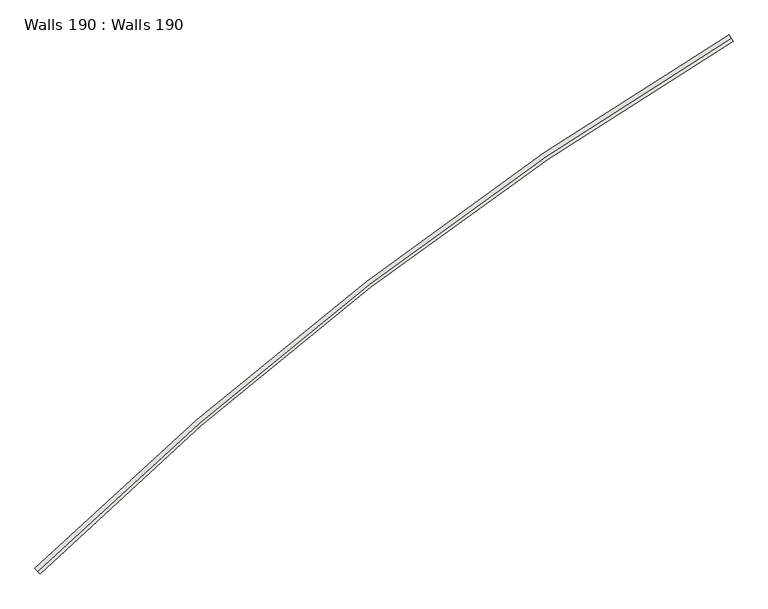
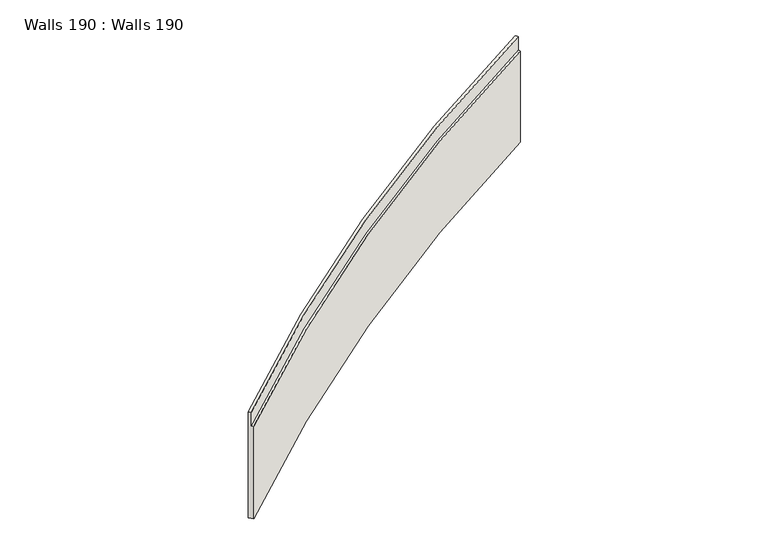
"""IFC4 building model written with IfcOpenShell, lengths in millimetres: wall geometry, Walls 190 : Walls 190."""

from ifc_helpers import new_model, si_unit, frame, origin, place, context, project, spatial, source, transform, mapped, element, save
from ifc_brep_helpers import plane_surface, spline_curve, spline_surface, advanced_brep


def walls_190_walls_190_602c9f17(model_context):
    return source(origin(), model_context, "Body", "AdvancedBrep", [
        advanced_brep(
        [(239706.9045303, 146073.1757545, 642390.0), (239951.142071, 145822.4806734, 642390.0), (239951.142071, 145822.4806734, 649160.0), (239846.4688393, 145929.9214224, 649160.0), (239846.4688393, 145929.9214224, 650160.0), (239706.9045303, 146073.1757545, 650160.0), (272956.2482205, 171643.1478284, 642890.0), (272956.2482205, 171643.1478284, 650560.0), (273058.8688143, 171471.4824162, 650560.0), (273058.8688143, 171471.4824162, 649560.0), (273135.8342596, 171342.733357, 649560.0), (273135.8342596, 171342.733357, 642890.0)],
        [
            (0, 1),
            (1, 2),
            (2, 3),
            (3, 4),
            (4, 5),
            (5, 0),
            (6, 7),
            (7, 8),
            (8, 9),
            (9, 10),
            (10, 11),
            (11, 6),
            (11, 1, spline_curve(3, [(273135.8342596, 171342.733357, 642890.0), (270134.675411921, 169548.657900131, 642848.333333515), (267185.908816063, 167666.940579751, 642806.666666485), (261403.209555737, 163734.635168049, 642723.333333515), (258569.27689185, 161684.047076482, 642681.666666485), (253025.90454835, 157420.989214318, 642598.333333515), (250316.464867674, 155208.519444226, 642556.666666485), (245031.313187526, 150629.239119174, 642473.333333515), (242455.601186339, 148262.428565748, 642431.666666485), (239951.142071, 145822.4806734, 642390.0)], [4, 2, 2, 2, 4], [0.0, 34.44561611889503, 68.89123223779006, 103.33684835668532, 137.78246447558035])),
            (0, 6, spline_curve(3, [(239706.9045303, 146073.1757545, 642390.0), (242216.242914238, 148517.877232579, 642431.666666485), (244796.973001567, 150889.298885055, 642473.333333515), (250092.421388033, 155477.500711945, 642556.666666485), (252807.139686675, 157694.280889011, 642598.333333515), (258361.311810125, 161965.644179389, 642681.666666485), (261200.765634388, 164020.227294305, 642723.333333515), (266994.730937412, 167960.193750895, 642806.666666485), (269949.242416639, 169845.57709449, 642848.333333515), (272956.2482205, 171643.1478284, 642890.0)], [4, 2, 2, 2, 4], [0.0, 34.44561611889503, 68.89123223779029, 103.33684835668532, 137.78246447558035])),
            (9, 3, spline_curve(3, [(273058.8688143, 171471.4824162, 649560.0), (270055.204128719, 169675.908983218, 649526.666667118), (267103.975439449, 167792.620510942, 649493.333332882), (261316.447875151, 163857.031792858, 649426.666667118), (258480.148999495, 161804.731549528, 649393.333332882), (252932.148179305, 157538.114217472, 649326.666667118), (250220.446233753, 155323.797130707, 649293.333332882), (244930.881679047, 150740.693304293, 649226.666667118), (242353.019069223, 148371.906566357, 649193.333332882), (239846.4688393, 145929.9214224, 649160.0)], [4, 2, 2, 2, 4], [0.0, 34.425584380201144, 68.85116876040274, 103.27675314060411, 137.70233752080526])),
            (2, 10, spline_curve(3, [(239951.142071, 145822.4806734, 649160.0), (242455.601185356, 148262.428565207, 649193.333332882), (245031.313186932, 150629.23911988, 649226.666667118), (250316.464868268, 155208.51944352, 649293.333332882), (253025.904548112, 157420.989214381, 649326.666667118), (258569.276892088, 161684.047076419, 649393.333332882), (261403.209556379, 163734.6351677, 649426.666667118), (267185.908815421, 167666.9405801, 649493.333332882), (270134.675412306, 169548.657899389, 649526.666667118), (273135.8342596, 171342.733357, 649560.0)], [4, 2, 2, 2, 4], [0.0, 34.425584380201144, 68.85116876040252, 103.27675314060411, 137.70233752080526])),
            (7, 5, spline_curve(3, [(272956.2482205, 171643.1478284, 650560.0), (269949.24241738, 169845.577094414, 650526.666666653), (266994.730937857, 167960.193751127, 650493.333333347), (261200.765633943, 164020.227294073, 650426.666666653), (258361.311810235, 161965.644179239, 650393.333333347), (252807.139686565, 157694.280889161, 650326.666666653), (250092.421387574, 155477.500712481, 650293.333333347), (244796.973002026, 150889.298884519, 650226.666666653), (242216.242914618, 148517.877232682, 650193.333333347), (239706.9045303, 146073.1757545, 650160.0)], [4, 2, 2, 2, 4], [0.0, 34.45910186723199, 68.91820373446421, 103.37730560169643, 137.83640746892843])),
            (4, 8, spline_curve(3, [(239846.4688393, 145929.9214224, 650160.0), (242353.019069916, 148371.90656654, 650193.333333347), (244930.881678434, 150740.693304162, 650226.666666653), (250220.446234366, 155323.797130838, 650293.333333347), (252932.148179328, 157538.114217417, 650326.666666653), (258480.148999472, 161804.731549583, 650393.333333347), (261316.447874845, 163857.031793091, 650426.666666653), (267103.975439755, 167792.620510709, 650493.333333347), (270055.204128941, 169675.908983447, 650526.666666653), (273058.8688143, 171471.4824162, 650560.0)], [4, 2, 2, 2, 4], [0.0, 34.45910186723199, 68.91820373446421, 103.37730560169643, 137.83640746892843])),
        ],
        [
            plane_surface(frame((239834.8384802, 145941.8592835, 647236.6666667), z_axis=(-0.71627166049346, -0.6978215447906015, 0.0), x_axis=(0.6978215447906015, -0.71627166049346, 0.0))),
            plane_surface(frame((273050.3170981, 171485.7878672, 647670.0), z_axis=(0.8583270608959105, 0.5131029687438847, 0.0), x_axis=(0.5131029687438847, -0.8583270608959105, 0.0))),
            spline_surface(3, 3, [[(272956.2482205, 171643.1478284, 642890.0), (269949.242417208, 169845.577094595, 642848.333333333), (266994.730937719, 167960.193751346, 642806.666666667), (261200.765634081, 164020.227293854, 642723.333333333), (258361.31180991, 161965.644179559, 642681.666666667), (252807.13968689, 157694.280888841, 642598.333333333), (250092.421387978, 155477.50071244, 642556.666666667), (244796.973001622, 150889.29888456, 642473.333333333), (242216.24291419, 148517.877233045, 642431.666666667), (239706.9045303, 146073.1757545, 642390.0)], [(272971.213723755, 171618.113289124, 642890.0), (269964.695166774, 169820.833828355, 642848.333333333), (267010.662427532, 167935.75598701, 642806.666666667), (261217.635960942, 163996.427950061, 642723.333333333), (258378.642233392, 161942.177754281, 642681.666666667), (252825.370092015, 157671.506582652, 642598.333333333), (250111.091677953, 155455.085606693, 642556.666666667), (244816.501350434, 150867.627237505, 642473.333333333), (242236.189436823, 148496.589844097, 642431.666666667), (239727.25765869, 146052.284497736, 642390.0)], [(272986.179227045, 171593.078749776, 642890.0), (269980.147916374, 169796.090562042, 642848.333333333), (267026.593917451, 167911.318222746, 642806.666666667), (261234.506287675, 163972.628606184, 642723.333333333), (258395.972656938, 161918.71132906, 642681.666666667), (252843.600497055, 157648.732276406, 642598.333333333), (250129.761968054, 155432.670501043, 642556.666666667), (244836.02969916, 150845.955590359, 642473.333333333), (242256.135959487, 148475.302455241, 642431.666666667), (239747.61078711, 146031.393241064, 642390.0)], [(273016.110233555, 171543.009671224, 642890.0), (270011.053415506, 169746.604029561, 642848.333333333), (267058.456897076, 167862.442694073, 642806.666666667), (261268.246941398, 163925.029918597, 642723.333333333), (258430.633503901, 161871.778478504, 642681.666666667), (252880.061307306, 157603.18366403, 642598.333333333), (250167.102548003, 155387.840289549, 642556.666666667), (244875.086396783, 150802.612296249, 642473.333333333), (242296.029004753, 148432.727677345, 642431.666666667), (239788.31704389, 145989.610727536, 642390.0)], [(273031.075736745, 171517.975131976, 642890.0), (270026.506165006, 169721.860763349, 642848.333333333), (267074.388386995, 167838.004929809, 642806.666666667), (261285.117268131, 163901.23057472, 642723.333333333), (258447.963927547, 161848.312053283, 642681.666666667), (252898.291712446, 157580.409357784, 642598.333333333), (250185.772838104, 155365.425183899, 642556.666666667), (244894.614745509, 150780.940649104, 642473.333333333), (242315.975527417, 148411.440288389, 642431.666666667), (239808.67017231, 145968.719470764, 642390.0)], [(273061.006743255, 171467.906053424, 642890.0), (270057.411664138, 169672.374230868, 642848.333333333), (267106.25136662, 167789.129401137, 642806.666666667), (261318.857921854, 163853.631887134, 642723.333333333), (258482.62477451, 161801.379202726, 642681.666666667), (252934.752522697, 157534.860745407, 642598.333333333), (250223.113418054, 155320.594972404, 642556.666666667), (244933.671443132, 150737.597354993, 642473.333333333), (242355.868572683, 148368.865510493, 642431.666666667), (239849.37642909, 145926.936957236, 642390.0)], [(273075.972246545, 171442.871514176, 642890.0), (270072.864413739, 169647.630964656, 642848.333333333), (267122.18285654, 167764.691636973, 642806.666666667), (261335.728248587, 163829.832543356, 642723.333333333), (258499.955198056, 161777.912777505, 642681.666666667), (252952.982927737, 157512.086439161, 642598.333333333), (250241.783708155, 155298.179866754, 642556.666666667), (244953.199791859, 150715.925707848, 642473.333333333), (242375.815095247, 148347.578121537, 642431.666666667), (239869.72955741, 145906.045700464, 642390.0)], [(273105.903253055, 171392.802435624, 642890.0), (270103.76991287, 169598.144432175, 642848.333333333), (267154.045836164, 167715.816108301, 642806.666666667), (261369.468902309, 163782.23385577, 642723.333333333), (258534.616045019, 161730.979926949, 642681.666666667), (252989.443737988, 157466.537826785, 642598.333333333), (250279.124288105, 155253.34965526, 642556.666666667), (244992.256489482, 150672.582413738, 642473.333333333), (242415.708140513, 148305.003343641, 642431.666666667), (239910.43581419, 145864.263186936, 642390.0)], [(273120.868756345, 171367.767896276, 642890.0), (270119.222662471, 169573.401165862, 642848.333333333), (267169.977326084, 167691.378344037, 642806.666666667), (261386.339229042, 163758.434511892, 642723.333333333), (258551.946468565, 161707.513501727, 642681.666666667), (253007.674143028, 157443.763520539, 642598.333333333), (250297.794578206, 155230.93454961, 642556.666666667), (245011.784838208, 150650.910766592, 642473.333333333), (242435.654663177, 148283.715954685, 642431.666666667), (239930.78894261, 145843.371930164, 642390.0)], [(273135.8342596, 171342.733357, 642890.0), (270134.675412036, 169548.657899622, 642848.333333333), (267185.908815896, 167666.940579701, 642806.666666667), (261403.209555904, 163734.635168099, 642723.333333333), (258569.276892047, 161684.047076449, 642681.666666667), (253025.904548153, 157420.989214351, 642598.333333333), (250316.46486818, 155208.519443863, 642556.666666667), (245031.31318702, 150629.239119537, 642473.333333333), (242455.60118581, 148262.428565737, 642431.666666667), (239951.142071, 145822.4806734, 642390.0)]], [4, 2, 2, 2, 4], [4, 2, 2, 2, 4], [0.0, 0.28707349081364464, 0.5741469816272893, 0.8612204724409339, 1.1482939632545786], [0.0, 34.44561611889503, 68.89123223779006, 103.33684835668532, 137.78246447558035]),
            spline_surface(3, 3, [[(273135.8342596, 171342.733357, 649560.0), (270134.675412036, 169548.657899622, 649526.666666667), (267185.908815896, 167666.940579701, 649493.333333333), (261403.209555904, 163734.635168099, 649426.666666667), (258569.276892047, 161684.047076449, 649393.333333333), (253025.904548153, 157420.989214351, 649326.666666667), (250316.46486818, 155208.519443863, 649293.333333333), (245031.31318702, 150629.239119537, 649226.666666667), (242455.60118581, 148262.428565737, 649193.333333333), (239951.142071, 145822.4806734, 649160.0)], [(273129.420472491, 171353.462445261, 649560.0), (270128.05280508, 169559.262156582, 649526.666666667), (267179.081034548, 167677.413907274, 649493.333333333), (261395.97941582, 163744.834886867, 649426.666666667), (258561.849567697, 161694.104115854, 649393.333333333), (253018.091517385, 157430.749631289, 649326.666666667), (250308.463315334, 155218.125917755, 649293.333333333), (245022.943894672, 150638.526968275, 649226.666666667), (242447.05267611, 148271.551732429, 649193.333333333), (239942.41930169, 145831.434069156, 649160.0)], [(273123.006685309, 171364.191533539, 649560.0), (270121.430198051, 169569.866413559, 649526.666666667), (267172.253253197, 167687.887234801, 649493.333333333), (261388.749275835, 163755.034605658, 649426.666666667), (258554.422243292, 161704.16115522, 649393.333333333), (253010.278486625, 157440.510048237, 649326.666666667), (250300.461762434, 155227.732391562, 649293.333333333), (245014.574602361, 150647.814817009, 649226.666666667), (242438.50416644, 148280.674899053, 649193.333333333), (239933.69653241, 145840.387464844, 649160.0)], [(273110.179111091, 171385.649710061, 649560.0), (270108.184984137, 169591.074927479, 649526.666666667), (267158.597690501, 167708.833889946, 649493.333333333), (261374.288995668, 163775.434043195, 649426.666666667), (258539.567594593, 161724.27523403, 649393.333333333), (252994.652425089, 157460.030882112, 649326.666666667), (250284.458656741, 155246.945339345, 649293.333333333), (244997.836017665, 150666.390514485, 649226.666666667), (242421.40714704, 148298.921232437, 649193.333333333), (239916.25099379, 145858.294256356, 649160.0)], [(273103.765324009, 171396.378798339, 649560.0), (270101.562377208, 169601.679184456, 649526.666666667), (267151.76990905, 167719.307217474, 649493.333333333), (261367.058855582, 163785.633761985, 649426.666666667), (258532.140270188, 161734.332273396, 649393.333333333), (252986.839394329, 157469.791299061, 649326.666666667), (250276.457103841, 155256.551813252, 649293.333333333), (244989.466725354, 150675.678363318, 649226.666666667), (242412.85863727, 148308.044399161, 649193.333333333), (239907.52822441, 145867.247652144, 649160.0)], [(273090.937749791, 171417.836974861, 649560.0), (270088.317163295, 169622.887698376, 649526.666666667), (267138.114346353, 167740.253872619, 649493.333333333), (261352.598575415, 163806.033199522, 649426.666666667), (258517.285621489, 161754.446352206, 649393.333333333), (252971.213332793, 157489.312132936, 649326.666666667), (250260.453998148, 155275.764761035, 649293.333333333), (244972.728140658, 150694.254060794, 649226.666666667), (242395.76161787, 148326.290732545, 649193.333333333), (239890.08268579, 145885.154443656, 649160.0)], [(273084.523962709, 171428.566063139, 649560.0), (270081.694556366, 169633.491955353, 649526.666666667), (267131.286565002, 167750.727200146, 649493.333333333), (261345.36843543, 163816.232918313, 649426.666666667), (258509.858297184, 161764.503391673, 649393.333333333), (252963.400302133, 157499.072549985, 649326.666666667), (250252.452445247, 155285.371234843, 649293.333333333), (244964.358848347, 150703.541909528, 649226.666666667), (242387.2131082, 148335.413899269, 649193.333333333), (239881.35991651, 145894.107839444, 649160.0)], [(273071.696388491, 171450.024239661, 649560.0), (270068.449342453, 169654.700469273, 649526.666666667), (267117.631002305, 167771.673855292, 649493.333333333), (261330.908155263, 163836.632355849, 649426.666666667), (258495.003648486, 161784.617470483, 649393.333333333), (252947.774240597, 157518.59338386, 649326.666666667), (250236.449339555, 155304.584182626, 649293.333333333), (244947.620263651, 150722.117607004, 649226.666666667), (242370.1160888, 148353.660232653, 649193.333333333), (239863.91437789, 145912.014630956, 649160.0)], [(273065.282601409, 171460.753327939, 649560.0), (270061.826735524, 169665.30472625, 649526.666666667), (267110.803220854, 167782.147182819, 649493.333333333), (261323.678015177, 163846.83207464, 649426.666666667), (258487.57632408, 161794.674509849, 649393.333333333), (252939.961209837, 157528.353800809, 649326.666666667), (250228.447786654, 155314.190656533, 649293.333333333), (244939.25097134, 150731.405455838, 649226.666666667), (242361.56757913, 148362.783399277, 649193.333333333), (239855.19160861, 145920.968026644, 649160.0)], [(273058.8688143, 171471.4824162, 649560.0), (270055.204128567, 169675.90898321, 649526.666666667), (267103.975439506, 167792.620510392, 649493.333333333), (261316.447875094, 163857.031793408, 649426.666666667), (258480.148999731, 161804.731549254, 649393.333333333), (252932.148179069, 157538.114217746, 649326.666666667), (250220.446233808, 155323.797130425, 649293.333333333), (244930.881678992, 150740.693304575, 649226.666666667), (242353.01906943, 148371.906565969, 649193.333333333), (239846.4688393, 145929.9214224, 649160.0)]], [4, 2, 2, 2, 4], [4, 2, 2, 2, 4], [0.0, 0.12303149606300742, 0.24606299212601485, 0.36909448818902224, 0.4921259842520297], [0.0, 34.425584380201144, 68.85116876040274, 103.27675314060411, 137.70233752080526]),
            spline_surface(3, 3, [[(273058.8688143, 171471.4824162, 650560.0), (270055.204128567, 169675.90898321, 650526.666666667), (267103.975439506, 167792.620510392, 650493.333333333), (261316.447875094, 163857.031793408, 650426.666666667), (258480.148999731, 161804.731549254, 650393.333333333), (252932.148179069, 157538.114217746, 650326.666666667), (250220.446233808, 155323.797130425, 650293.333333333), (244930.881678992, 150740.693304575, 650226.666666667), (242353.01906943, 148371.906565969, 650193.333333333), (239846.4688393, 145929.9214224, 650160.0)], [(273050.317098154, 171485.787867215, 650560.0), (270046.373985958, 169690.047992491, 650526.666666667), (267094.871731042, 167806.584947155, 650493.333333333), (261306.807688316, 163870.631418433, 650426.666666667), (258470.245900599, 161818.140935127, 650393.333333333), (252921.730804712, 157551.128106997, 650326.666666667), (250209.77749668, 155336.60576228, 650293.333333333), (244919.722622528, 150753.077102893, 650226.666666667), (242341.621056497, 148384.070788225, 650193.333333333), (239834.83848022, 145941.859283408, 650160.0)], [(273041.765381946, 171500.093318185, 650560.0), (270037.543843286, 169704.187001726, 650526.666666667), (267085.768022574, 167820.549383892, 650493.333333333), (261297.167501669, 163884.23104352, 650426.666666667), (258460.342801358, 161831.550320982, 650393.333333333), (252911.313430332, 157564.141996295, 650326.666666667), (250199.108759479, 155349.414394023, 650293.333333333), (244908.563566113, 150765.460901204, 650226.666666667), (242330.223043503, 148396.235010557, 650193.333333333), (239823.20812108, 145953.797144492, 650160.0)], [(273024.661949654, 171528.704220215, 650560.0), (270019.883558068, 169732.465020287, 650526.666666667), (267067.560605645, 167848.478257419, 650493.333333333), (261277.887128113, 163911.430293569, 650426.666666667), (258440.536603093, 161858.369092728, 650393.333333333), (252890.478681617, 157590.169774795, 650326.666666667), (250177.771285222, 155375.031657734, 650293.333333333), (244886.245453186, 150790.228497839, 650226.666666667), (242307.427017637, 148420.563455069, 650193.333333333), (239799.94740292, 145977.672866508, 650160.0)], [(273016.110233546, 171543.009671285, 650560.0), (270011.053415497, 169746.604029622, 650526.666666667), (267058.456897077, 167862.442694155, 650493.333333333), (261268.246941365, 163925.029918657, 650426.666666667), (258430.633503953, 161871.778478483, 650393.333333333), (252880.061307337, 157603.183663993, 650326.666666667), (250167.102548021, 155387.840289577, 650293.333333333), (244875.086396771, 150802.612296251, 650226.666666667), (242296.029004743, 148432.727677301, 650193.333333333), (239788.31704388, 145989.610727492, 650160.0)], [(272999.006801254, 171571.620573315, 650560.0), (269993.393130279, 169774.882048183, 650526.666666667), (267040.249480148, 167890.371567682, 650493.333333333), (261248.966567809, 163952.229168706, 650426.666666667), (258410.827305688, 161898.59725023, 650393.333333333), (252859.226558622, 157629.211442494, 650326.666666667), (250145.765073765, 155413.457553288, 650293.333333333), (244852.768283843, 150827.379892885, 650226.666666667), (242273.232978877, 148457.056121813, 650193.333333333), (239765.05632572, 146013.486449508, 650160.0)], [(272990.455085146, 171585.926024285, 650560.0), (269984.562987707, 169789.021057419, 650526.666666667), (267031.14577158, 167904.336004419, 650493.333333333), (261239.326381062, 163965.828793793, 650426.666666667), (258400.924206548, 161912.006636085, 650393.333333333), (252848.809184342, 157642.225331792, 650326.666666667), (250135.096336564, 155426.266185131, 650293.333333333), (244841.609227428, 150839.763691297, 650226.666666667), (242261.834965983, 148469.220344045, 650193.333333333), (239753.42596668, 146025.424310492, 650160.0)], [(272973.351652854, 171614.536926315, 650560.0), (269966.902702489, 169817.299075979, 650526.666666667), (267012.938354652, 167932.264877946, 650493.333333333), (261220.046007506, 163993.028043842, 650426.666666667), (258381.118008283, 161938.825407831, 650393.333333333), (252827.974435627, 157668.253110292, 650326.666666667), (250113.758862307, 155451.883448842, 650293.333333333), (244819.291114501, 150864.531287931, 650226.666666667), (242239.038940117, 148493.548788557, 650193.333333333), (239730.16524852, 146049.300032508, 650160.0)], [(272964.799936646, 171628.842377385, 650560.0), (269958.072559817, 169831.438085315, 650526.666666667), (267003.834646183, 167946.229314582, 650493.333333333), (261210.405820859, 164006.62766883, 650426.666666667), (258371.214909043, 161952.234793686, 650393.333333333), (252817.557061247, 157681.26699959, 650326.666666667), (250103.090125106, 155464.692080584, 650293.333333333), (244808.132058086, 150876.915086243, 650226.666666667), (242227.640927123, 148505.713010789, 650193.333333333), (239718.53488938, 146061.237893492, 650160.0)], [(272956.2482205, 171643.1478284, 650560.0), (269949.242417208, 169845.577094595, 650526.666666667), (266994.730937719, 167960.193751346, 650493.333333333), (261200.765634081, 164020.227293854, 650426.666666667), (258361.31180991, 161965.644179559, 650393.333333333), (252807.13968689, 157694.280888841, 650326.666666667), (250092.421387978, 155477.50071244, 650293.333333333), (244796.973001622, 150889.29888456, 650226.666666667), (242216.24291419, 148517.877233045, 650193.333333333), (239706.9045303, 146073.1757545, 650160.0)]], [4, 2, 2, 2, 4], [4, 2, 2, 2, 4], [0.0, 0.16404199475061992, 0.32808398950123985, 0.49212598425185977, 0.6561679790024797], [0.0, 34.45910186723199, 68.91820373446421, 103.37730560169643, 137.83640746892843]),
            spline_surface(3, 3, [[(272956.2482205, 171643.1478284, 650560.0), (269949.242417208, 169845.577094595, 650526.666666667), (266994.730937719, 167960.193751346, 650493.333333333), (261200.765634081, 164020.227293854, 650426.666666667), (258361.31180991, 161965.644179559, 650393.333333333), (252807.13968689, 157694.280888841, 650326.666666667), (250092.421387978, 155477.50071244, 650293.333333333), (244796.973001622, 150889.29888456, 650226.666666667), (242216.24291419, 148517.877233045, 650193.333333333), (239706.9045303, 146073.1757545, 650160.0)], [(272956.2482205, 171643.1478284, 649920.833333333), (269949.242417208, 169845.577094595, 649886.805555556), (266994.730937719, 167960.193751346, 649852.777777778), (261200.765634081, 164020.227293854, 649784.722222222), (258361.31180991, 161965.644179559, 649750.694444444), (252807.13968689, 157694.280888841, 649682.638888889), (250092.421387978, 155477.50071244, 649648.611111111), (244796.973001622, 150889.29888456, 649580.555555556), (242216.24291419, 148517.877233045, 649546.527777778), (239706.9045303, 146073.1757545, 649512.5)], [(272956.2482205, 171643.1478284, 649281.666666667), (269949.242417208, 169845.577094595, 649246.944444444), (266994.730937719, 167960.193751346, 649212.222222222), (261200.765634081, 164020.227293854, 649142.777777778), (258361.31180991, 161965.644179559, 649108.055555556), (252807.13968689, 157694.280888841, 649038.611111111), (250092.421387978, 155477.50071244, 649003.888888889), (244796.973001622, 150889.29888456, 648934.444444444), (242216.24291419, 148517.877233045, 648899.722222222), (239706.9045303, 146073.1757545, 648865.0)], [(272956.2482205, 171643.1478284, 648003.333333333), (269949.242417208, 169845.577094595, 647967.222222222), (266994.730937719, 167960.193751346, 647931.111111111), (261200.765634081, 164020.227293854, 647858.888888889), (258361.31180991, 161965.644179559, 647822.777777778), (252807.13968689, 157694.280888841, 647750.555555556), (250092.421387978, 155477.50071244, 647714.444444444), (244796.973001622, 150889.29888456, 647642.222222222), (242216.24291419, 148517.877233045, 647606.111111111), (239706.9045303, 146073.1757545, 647570.0)], [(272956.2482205, 171643.1478284, 647364.166666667), (269949.242417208, 169845.577094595, 647327.361111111), (266994.730937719, 167960.193751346, 647290.555555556), (261200.765634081, 164020.227293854, 647216.944444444), (258361.31180991, 161965.644179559, 647180.138888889), (252807.13968689, 157694.280888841, 647106.527777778), (250092.421387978, 155477.50071244, 647069.722222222), (244796.973001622, 150889.29888456, 646996.111111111), (242216.24291419, 148517.877233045, 646959.305555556), (239706.9045303, 146073.1757545, 646922.5)], [(272956.2482205, 171643.1478284, 646085.833333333), (269949.242417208, 169845.577094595, 646047.638888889), (266994.730937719, 167960.193751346, 646009.444444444), (261200.765634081, 164020.227293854, 645933.055555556), (258361.31180991, 161965.644179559, 645894.861111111), (252807.13968689, 157694.280888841, 645818.472222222), (250092.421387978, 155477.50071244, 645780.277777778), (244796.973001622, 150889.29888456, 645703.888888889), (242216.24291419, 148517.877233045, 645665.694444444), (239706.9045303, 146073.1757545, 645627.5)], [(272956.2482205, 171643.1478284, 645446.666666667), (269949.242417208, 169845.577094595, 645407.777777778), (266994.730937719, 167960.193751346, 645368.888888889), (261200.765634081, 164020.227293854, 645291.111111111), (258361.31180991, 161965.644179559, 645252.222222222), (252807.13968689, 157694.280888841, 645174.444444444), (250092.421387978, 155477.50071244, 645135.555555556), (244796.973001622, 150889.29888456, 645057.777777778), (242216.24291419, 148517.877233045, 645018.888888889), (239706.9045303, 146073.1757545, 644980.0)], [(272956.2482205, 171643.1478284, 644168.333333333), (269949.242417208, 169845.577094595, 644128.055555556), (266994.730937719, 167960.193751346, 644087.777777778), (261200.765634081, 164020.227293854, 644007.222222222), (258361.31180991, 161965.644179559, 643966.944444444), (252807.13968689, 157694.280888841, 643886.388888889), (250092.421387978, 155477.50071244, 643846.111111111), (244796.973001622, 150889.29888456, 643765.555555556), (242216.24291419, 148517.877233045, 643725.277777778), (239706.9045303, 146073.1757545, 643685.0)], [(272956.2482205, 171643.1478284, 643529.166666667), (269949.242417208, 169845.577094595, 643488.194444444), (266994.730937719, 167960.193751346, 643447.222222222), (261200.765634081, 164020.227293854, 643365.277777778), (258361.31180991, 161965.644179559, 643324.305555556), (252807.13968689, 157694.280888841, 643242.361111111), (250092.421387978, 155477.50071244, 643201.388888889), (244796.973001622, 150889.29888456, 643119.444444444), (242216.24291419, 148517.877233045, 643078.472222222), (239706.9045303, 146073.1757545, 643037.5)], [(272956.2482205, 171643.1478284, 642890.0), (269949.242417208, 169845.577094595, 642848.333333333), (266994.730937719, 167960.193751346, 642806.666666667), (261200.765634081, 164020.227293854, 642723.333333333), (258361.31180991, 161965.644179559, 642681.666666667), (252807.13968689, 157694.280888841, 642598.333333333), (250092.421387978, 155477.50071244, 642556.666666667), (244796.973001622, 150889.29888456, 642473.333333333), (242216.24291419, 148517.877233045, 642431.666666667), (239706.9045303, 146073.1757545, 642390.0)]], [4, 2, 2, 2, 4], [4, 2, 2, 2, 4], [0.0, 6.332020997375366, 12.664041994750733, 18.9960629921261, 25.328083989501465], [0.0, 34.478669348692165, 68.95733869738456, 103.43600804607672, 137.9146773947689]),
            spline_surface(3, 3, [[(273135.8342596, 171342.733357, 642890.0), (270134.675412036, 169548.657899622, 642848.333333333), (267185.908815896, 167666.940579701, 642806.666666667), (261403.209555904, 163734.635168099, 642723.333333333), (258569.276892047, 161684.047076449, 642681.666666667), (253025.904548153, 157420.989214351, 642598.333333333), (250316.46486818, 155208.519443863, 642556.666666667), (245031.31318702, 150629.239119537, 642473.333333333), (242455.60118581, 148262.428565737, 642431.666666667), (239951.142071, 145822.4806734, 642390.0)], [(273135.8342596, 171342.733357, 643445.833333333), (270134.675412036, 169548.657899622, 643404.861111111), (267185.908815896, 167666.940579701, 643363.888888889), (261403.209555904, 163734.635168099, 643281.944444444), (258569.276892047, 161684.047076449, 643240.972222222), (253025.904548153, 157420.989214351, 643159.027777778), (250316.46486818, 155208.519443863, 643118.055555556), (245031.31318702, 150629.239119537, 643036.111111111), (242455.60118581, 148262.428565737, 642995.138888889), (239951.142071, 145822.4806734, 642954.166666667)], [(273135.8342596, 171342.733357, 644001.666666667), (270134.675412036, 169548.657899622, 643961.388888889), (267185.908815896, 167666.940579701, 643921.111111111), (261403.209555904, 163734.635168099, 643840.555555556), (258569.276892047, 161684.047076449, 643800.277777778), (253025.904548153, 157420.989214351, 643719.722222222), (250316.46486818, 155208.519443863, 643679.444444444), (245031.31318702, 150629.239119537, 643598.888888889), (242455.60118581, 148262.428565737, 643558.611111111), (239951.142071, 145822.4806734, 643518.333333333)], [(273135.8342596, 171342.733357, 645113.333333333), (270134.675412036, 169548.657899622, 645074.444444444), (267185.908815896, 167666.940579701, 645035.555555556), (261403.209555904, 163734.635168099, 644957.777777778), (258569.276892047, 161684.047076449, 644918.888888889), (253025.904548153, 157420.989214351, 644841.111111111), (250316.46486818, 155208.519443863, 644802.222222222), (245031.31318702, 150629.239119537, 644724.444444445), (242455.60118581, 148262.428565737, 644685.555555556), (239951.142071, 145822.4806734, 644646.666666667)], [(273135.8342596, 171342.733357, 645669.166666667), (270134.675412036, 169548.657899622, 645630.972222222), (267185.908815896, 167666.940579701, 645592.777777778), (261403.209555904, 163734.635168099, 645516.388888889), (258569.276892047, 161684.047076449, 645478.194444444), (253025.904548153, 157420.989214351, 645401.805555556), (250316.46486818, 155208.519443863, 645363.611111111), (245031.31318702, 150629.239119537, 645287.222222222), (242455.60118581, 148262.428565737, 645249.027777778), (239951.142071, 145822.4806734, 645210.833333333)], [(273135.8342596, 171342.733357, 646780.833333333), (270134.675412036, 169548.657899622, 646744.027777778), (267185.908815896, 167666.940579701, 646707.222222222), (261403.209555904, 163734.635168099, 646633.611111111), (258569.276892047, 161684.047076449, 646596.805555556), (253025.904548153, 157420.989214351, 646523.194444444), (250316.46486818, 155208.519443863, 646486.388888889), (245031.31318702, 150629.239119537, 646412.777777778), (242455.60118581, 148262.428565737, 646375.972222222), (239951.142071, 145822.4806734, 646339.166666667)], [(273135.8342596, 171342.733357, 647336.666666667), (270134.675412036, 169548.657899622, 647300.555555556), (267185.908815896, 167666.940579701, 647264.444444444), (261403.209555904, 163734.635168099, 647192.222222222), (258569.276892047, 161684.047076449, 647156.111111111), (253025.904548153, 157420.989214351, 647083.888888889), (250316.46486818, 155208.519443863, 647047.777777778), (245031.31318702, 150629.239119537, 646975.555555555), (242455.60118581, 148262.428565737, 646939.444444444), (239951.142071, 145822.4806734, 646903.333333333)], [(273135.8342596, 171342.733357, 648448.333333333), (270134.675412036, 169548.657899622, 648413.611111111), (267185.908815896, 167666.940579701, 648378.888888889), (261403.209555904, 163734.635168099, 648309.444444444), (258569.276892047, 161684.047076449, 648274.722222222), (253025.904548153, 157420.989214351, 648205.277777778), (250316.46486818, 155208.519443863, 648170.555555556), (245031.31318702, 150629.239119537, 648101.111111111), (242455.60118581, 148262.428565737, 648066.388888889), (239951.142071, 145822.4806734, 648031.666666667)], [(273135.8342596, 171342.733357, 649004.166666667), (270134.675412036, 169548.657899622, 648970.138888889), (267185.908815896, 167666.940579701, 648936.111111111), (261403.209555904, 163734.635168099, 648868.055555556), (258569.276892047, 161684.047076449, 648834.027777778), (253025.904548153, 157420.989214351, 648765.972222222), (250316.46486818, 155208.519443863, 648731.944444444), (245031.31318702, 150629.239119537, 648663.888888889), (242455.60118581, 148262.428565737, 648629.861111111), (239951.142071, 145822.4806734, 648595.833333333)], [(273135.8342596, 171342.733357, 649560.0), (270134.675412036, 169548.657899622, 649526.666666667), (267185.908815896, 167666.940579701, 649493.333333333), (261403.209555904, 163734.635168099, 649426.666666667), (258569.276892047, 161684.047076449, 649393.333333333), (253025.904548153, 157420.989214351, 649326.666666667), (250316.46486818, 155208.519443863, 649293.333333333), (245031.31318702, 150629.239119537, 649226.666666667), (242455.60118581, 148262.428565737, 649193.333333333), (239951.142071, 145822.4806734, 649160.0)]], [4, 2, 2, 2, 4], [4, 2, 2, 2, 4], [0.0, 5.511811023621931, 11.023622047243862, 16.535433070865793, 22.047244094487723], [0.0, 34.4116351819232, 68.8232703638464, 103.23490554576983, 137.64654072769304]),
            spline_surface(3, 3, [[(273058.8688143, 171471.4824162, 649560.0), (270055.204128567, 169675.90898321, 649526.666666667), (267103.975439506, 167792.620510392, 649493.333333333), (261316.447875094, 163857.031793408, 649426.666666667), (258480.148999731, 161804.731549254, 649393.333333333), (252932.148179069, 157538.114217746, 649326.666666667), (250220.446233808, 155323.797130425, 649293.333333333), (244930.881678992, 150740.693304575, 649226.666666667), (242353.01906943, 148371.906565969, 649193.333333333), (239846.4688393, 145929.9214224, 649160.0)], [(273058.8688143, 171471.4824162, 649643.333333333), (270055.204128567, 169675.90898321, 649610.0), (267103.975439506, 167792.620510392, 649576.666666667), (261316.447875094, 163857.031793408, 649510.0), (258480.148999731, 161804.731549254, 649476.666666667), (252932.148179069, 157538.114217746, 649410.0), (250220.446233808, 155323.797130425, 649376.666666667), (244930.881678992, 150740.693304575, 649310.0), (242353.01906943, 148371.906565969, 649276.666666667), (239846.4688393, 145929.9214224, 649243.333333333)], [(273058.8688143, 171471.4824162, 649726.666666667), (270055.204128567, 169675.90898321, 649693.333333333), (267103.975439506, 167792.620510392, 649660.0), (261316.447875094, 163857.031793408, 649593.333333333), (258480.148999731, 161804.731549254, 649560.0), (252932.148179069, 157538.114217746, 649493.333333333), (250220.446233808, 155323.797130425, 649460.0), (244930.881678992, 150740.693304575, 649393.333333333), (242353.01906943, 148371.906565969, 649360.0), (239846.4688393, 145929.9214224, 649326.666666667)], [(273058.8688143, 171471.4824162, 649893.333333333), (270055.204128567, 169675.90898321, 649860.0), (267103.975439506, 167792.620510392, 649826.666666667), (261316.447875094, 163857.031793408, 649760.0), (258480.148999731, 161804.731549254, 649726.666666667), (252932.148179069, 157538.114217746, 649660.0), (250220.446233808, 155323.797130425, 649626.666666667), (244930.881678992, 150740.693304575, 649560.0), (242353.01906943, 148371.906565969, 649526.666666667), (239846.4688393, 145929.9214224, 649493.333333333)], [(273058.8688143, 171471.4824162, 649976.666666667), (270055.204128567, 169675.90898321, 649943.333333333), (267103.975439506, 167792.620510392, 649910.0), (261316.447875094, 163857.031793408, 649843.333333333), (258480.148999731, 161804.731549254, 649810.0), (252932.148179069, 157538.114217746, 649743.333333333), (250220.446233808, 155323.797130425, 649710.0), (244930.881678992, 150740.693304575, 649643.333333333), (242353.01906943, 148371.906565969, 649610.0), (239846.4688393, 145929.9214224, 649576.666666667)], [(273058.8688143, 171471.4824162, 650143.333333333), (270055.204128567, 169675.90898321, 650110.0), (267103.975439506, 167792.620510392, 650076.666666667), (261316.447875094, 163857.031793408, 650010.0), (258480.148999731, 161804.731549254, 649976.666666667), (252932.148179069, 157538.114217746, 649910.0), (250220.446233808, 155323.797130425, 649876.666666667), (244930.881678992, 150740.693304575, 649810.0), (242353.01906943, 148371.906565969, 649776.666666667), (239846.4688393, 145929.9214224, 649743.333333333)], [(273058.8688143, 171471.4824162, 650226.666666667), (270055.204128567, 169675.90898321, 650193.333333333), (267103.975439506, 167792.620510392, 650160.0), (261316.447875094, 163857.031793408, 650093.333333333), (258480.148999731, 161804.731549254, 650060.0), (252932.148179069, 157538.114217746, 649993.333333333), (250220.446233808, 155323.797130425, 649960.0), (244930.881678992, 150740.693304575, 649893.333333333), (242353.01906943, 148371.906565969, 649860.0), (239846.4688393, 145929.9214224, 649826.666666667)], [(273058.8688143, 171471.4824162, 650393.333333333), (270055.204128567, 169675.90898321, 650360.0), (267103.975439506, 167792.620510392, 650326.666666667), (261316.447875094, 163857.031793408, 650260.0), (258480.148999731, 161804.731549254, 650226.666666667), (252932.148179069, 157538.114217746, 650160.0), (250220.446233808, 155323.797130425, 650126.666666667), (244930.881678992, 150740.693304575, 650060.0), (242353.01906943, 148371.906565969, 650026.666666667), (239846.4688393, 145929.9214224, 649993.333333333)], [(273058.8688143, 171471.4824162, 650476.666666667), (270055.204128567, 169675.90898321, 650443.333333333), (267103.975439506, 167792.620510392, 650410.0), (261316.447875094, 163857.031793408, 650343.333333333), (258480.148999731, 161804.731549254, 650310.0), (252932.148179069, 157538.114217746, 650243.333333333), (250220.446233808, 155323.797130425, 650210.0), (244930.881678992, 150740.693304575, 650143.333333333), (242353.01906943, 148371.906565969, 650110.0), (239846.4688393, 145929.9214224, 650076.666666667)], [(273058.8688143, 171471.4824162, 650560.0), (270055.204128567, 169675.90898321, 650526.666666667), (267103.975439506, 167792.620510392, 650493.333333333), (261316.447875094, 163857.031793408, 650426.666666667), (258480.148999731, 161804.731549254, 650393.333333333), (252932.148179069, 157538.114217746, 650326.666666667), (250220.446233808, 155323.797130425, 650293.333333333), (244930.881678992, 150740.693304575, 650226.666666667), (242353.01906943, 148371.906565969, 650193.333333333), (239846.4688393, 145929.9214224, 650160.0)]], [4, 2, 2, 2, 4], [4, 2, 2, 2, 4], [0.0, 0.8202099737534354, 1.6404199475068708, 2.460629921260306, 3.2808398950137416], [0.0, 34.43994901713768, 68.87989803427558, 103.31984705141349, 137.75979606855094]),
        ],
        [
            (0, [[1, 2, 3, 4, 5, 6]]),
            (1, [[7, 8, 9, 10, 11, 12]]),
            (2, [[-12, 13, -1, 14]]),
            (3, [[-10, 15, -3, 16]]),
            (4, [[-8, 17, -5, 18]]),
            (5, [[-7, -14, -6, -17]]),
            (6, [[-11, -16, -2, -13]]),
            (7, [[-9, -18, -4, -15]]),
        ],
    ),
    ])


if __name__ == "__main__":
    model = new_model("IFC4")
    model_context = context("Model", 3, world=origin())
    ifc_project = project(units=[si_unit("LENGTHUNIT", "METRE", prefix="MILLI")], contexts=[model_context])
    site = spatial("IfcSite", under=ifc_project)
    building = spatial("IfcBuilding", under=site)
    placement = place(None, origin())
    walls_190_walls_190_shape = walls_190_walls_190_602c9f17(model_context)
    element("IfcWall", 1, ObjectType="Walls 190 : Walls 190", at=placement, inside=building, context=model_context, shape_type="MappedRepresentation", body=[
        mapped(walls_190_walls_190_shape, transform((0.0, 0.0, 0.0), x_axis=(1.0, 0.0, 0.0), y_axis=(0.0, 1.0, 0.0), z_axis=(0.0, 0.0, 1.0))),
    ])
    save(model, "model.ifc")
